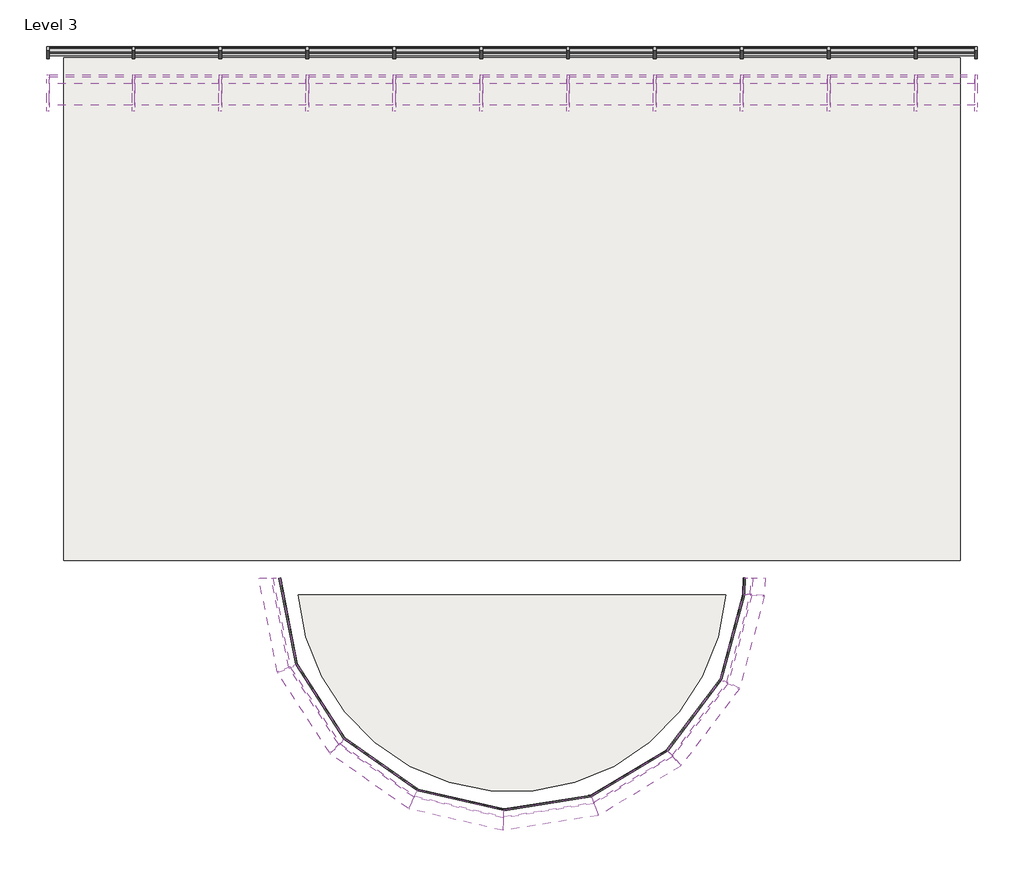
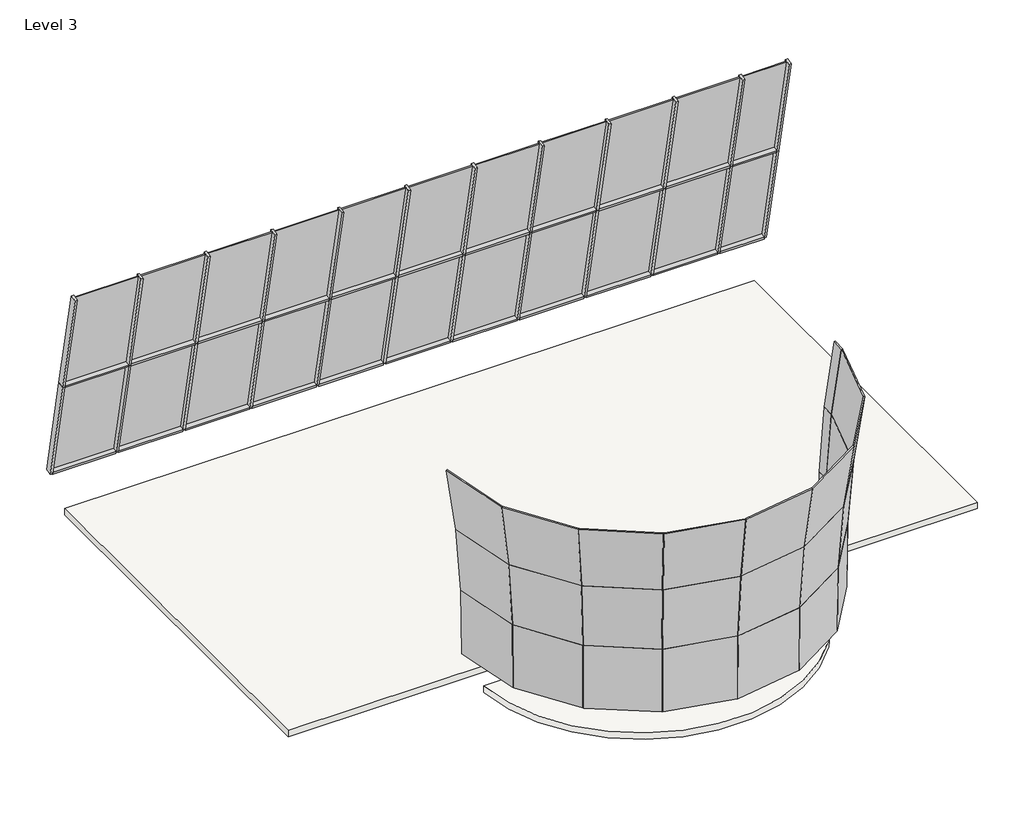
# One storey: 49 plates, 46 members, 2 slabs.
"""IFC4 building model written with IfcOpenShell, lengths in millimetres."""

from ifc_helpers import new_model, si_unit, point, frame, frame_2d, origin, place, context, project, spatial, polyline, circle_curve, trimmed, segment, composite_curve, outline, extrude, transform, mapped, element, save
from components import rectangular_mullion_50_x_150mm_662c37b1, rectangular_mullion_50_x_150mm_1f4d75dd, rectangular_mullion_50_x_150mm_f0154c62, rectangular_mullion_50_x_150mm_b8d1d5e0, rectangular_mullion_50_x_150mm_6225e4e3, system_panel_glazed_129cb0d4, system_panel_glazed_b38f2dba, system_panel_glazed_1b308fc3, system_panel_glazed_2e7a3a65, system_panel_glazed_ba983d34, system_panel_glazed_dd5094d1, system_panel_glazed_640ec45f, system_panel_glazed_0585b5a7, system_panel_glazed_ac3e331d

model = new_model("IFC4")

# Units and contexts
model_context = context("Model", 3, world=origin())
ifc_project = project(units=[si_unit("LENGTHUNIT", "METRE", prefix="MILLI")], contexts=[model_context])

# Site, building, storey
site = spatial("IfcSite", under=ifc_project)
building = spatial("IfcBuilding", under=site)
storey = spatial("IfcBuildingStorey", under=building, Name="Level 3", Elevation=8000.0)

# Members
placement = place(None, origin())
rectangular_mullion_50_x_150mm_shape = rectangular_mullion_50_x_150mm_662c37b1(model_context)
element("IfcMember", 1, ObjectType="Rectangular Mullion : 50 x 150mm", at=placement, inside=storey, context=model_context, shape_type="MappedRepresentation", body=[
    mapped(rectangular_mullion_50_x_150mm_shape, transform((7953.3508723, 7000.6875314, 11260.6991471), x_axis=(1.0, 0.0, 0.0), y_axis=(0.0, 0.9794896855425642, 0.20149430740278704), z_axis=(0.0, -0.20149430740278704, 0.9794896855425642))),
])
element("IfcMember", 2, ObjectType="Rectangular Mullion : 50 x 150mm", at=placement, inside=storey, context=model_context, shape_type="MappedRepresentation", body=[
    mapped(rectangular_mullion_50_x_150mm_shape, transform((7953.3508723, 6517.1011936, 13611.4743924), x_axis=(1.0, 0.0, 0.0), y_axis=(0.0, 0.9794896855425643, 0.20149430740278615), z_axis=(0.0, -0.20149430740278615, 0.9794896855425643))),
])
element("IfcMember", 3, ObjectType="Rectangular Mullion : 50 x 150mm", at=placement, inside=storey, context=model_context, shape_type="MappedRepresentation", body=[
    mapped(rectangular_mullion_50_x_150mm_shape, transform((-8113.532296, 7484.2738691, 8909.9239018), x_axis=(-1.0, 0.0, 0.0), y_axis=(0.0, 0.9794896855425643, 0.20149430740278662), z_axis=(0.0, 0.20149430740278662, -0.9794896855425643))),
])
element("IfcMember", 4, ObjectType="Rectangular Mullion : 50 x 150mm", at=placement, inside=storey, context=model_context, shape_type="MappedRepresentation", body=[
    mapped(rectangular_mullion_50_x_150mm_shape, transform((-8113.532296, 7000.6875314, 11260.6991471), x_axis=(-1.0, 0.0, 0.0), y_axis=(0.0, 0.9794896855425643, 0.20149430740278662), z_axis=(0.0, 0.20149430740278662, -0.9794896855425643))),
])
rectangular_mullion_50_x_150mm_2_shape = rectangular_mullion_50_x_150mm_1f4d75dd(model_context)
element("IfcMember", 5, ObjectType="Rectangular Mullion : 50 x 150mm", at=placement, inside=storey, context=model_context, shape_type="MappedRepresentation", body=[
    mapped(rectangular_mullion_50_x_150mm_2_shape, transform((-8063.532296, 7484.2738691, 8909.9239018), x_axis=(0.0, -0.2014943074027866, 0.9794896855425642), y_axis=(0.0, 0.9794896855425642, 0.2014943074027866), z_axis=(-1.0, 0.0, 0.0))),
])
element("IfcMember", 6, ObjectType="Rectangular Mullion : 50 x 150mm", at=placement, inside=storey, context=model_context, shape_type="MappedRepresentation", body=[
    mapped(rectangular_mullion_50_x_150mm_2_shape, transform((-8063.532296, 7000.6875314, 11260.6991471), x_axis=(0.0, -0.2014943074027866, 0.9794896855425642), y_axis=(0.0, 0.9794896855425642, 0.2014943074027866), z_axis=(-1.0, 0.0, 0.0))),
])
rectangular_mullion_50_x_150mm_3_shape = rectangular_mullion_50_x_150mm_f0154c62(model_context)
element("IfcMember", 7, ObjectType="Rectangular Mullion : 50 x 150mm", at=placement, inside=storey, context=model_context, shape_type="MappedRepresentation", body=[
    mapped(rectangular_mullion_50_x_150mm_3_shape, transform((-6588.532296, 7484.2738691, 8909.9239018), x_axis=(0.0, -0.2014943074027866, 0.9794896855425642), y_axis=(0.0, 0.9794896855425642, 0.2014943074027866), z_axis=(-1.0, 0.0, 0.0))),
])
element("IfcMember", 8, ObjectType="Rectangular Mullion : 50 x 150mm", at=placement, inside=storey, context=model_context, shape_type="MappedRepresentation", body=[
    mapped(rectangular_mullion_50_x_150mm_3_shape, transform((-5088.532296, 7484.2738691, 8909.9239018), x_axis=(0.0, -0.2014943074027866, 0.9794896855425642), y_axis=(0.0, 0.9794896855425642, 0.2014943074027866), z_axis=(-1.0, 0.0, 0.0))),
])
element("IfcMember", 9, ObjectType="Rectangular Mullion : 50 x 150mm", at=placement, inside=storey, context=model_context, shape_type="MappedRepresentation", body=[
    mapped(rectangular_mullion_50_x_150mm_3_shape, transform((-3588.532296, 7484.2738691, 8909.9239018), x_axis=(0.0, -0.2014943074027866, 0.9794896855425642), y_axis=(0.0, 0.9794896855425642, 0.2014943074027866), z_axis=(-1.0, 0.0, 0.0))),
])
element("IfcMember", 10, ObjectType="Rectangular Mullion : 50 x 150mm", at=placement, inside=storey, context=model_context, shape_type="MappedRepresentation", body=[
    mapped(rectangular_mullion_50_x_150mm_3_shape, transform((-2088.532296, 7484.2738691, 8909.9239018), x_axis=(0.0, -0.2014943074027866, 0.9794896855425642), y_axis=(0.0, 0.9794896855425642, 0.2014943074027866), z_axis=(-1.0, 0.0, 0.0))),
])
element("IfcMember", 11, ObjectType="Rectangular Mullion : 50 x 150mm", at=placement, inside=storey, context=model_context, shape_type="MappedRepresentation", body=[
    mapped(rectangular_mullion_50_x_150mm_3_shape, transform((-588.532296, 7484.2738691, 8909.9239018), x_axis=(0.0, -0.2014943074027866, 0.9794896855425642), y_axis=(0.0, 0.9794896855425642, 0.2014943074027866), z_axis=(-1.0, 0.0, 0.0))),
])
element("IfcMember", 12, ObjectType="Rectangular Mullion : 50 x 150mm", at=placement, inside=storey, context=model_context, shape_type="MappedRepresentation", body=[
    mapped(rectangular_mullion_50_x_150mm_3_shape, transform((911.467704, 7484.2738691, 8909.9239018), x_axis=(0.0, -0.2014943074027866, 0.9794896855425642), y_axis=(0.0, 0.9794896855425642, 0.2014943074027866), z_axis=(-1.0, 0.0, 0.0))),
])
element("IfcMember", 13, ObjectType="Rectangular Mullion : 50 x 150mm", at=placement, inside=storey, context=model_context, shape_type="MappedRepresentation", body=[
    mapped(rectangular_mullion_50_x_150mm_3_shape, transform((2411.467704, 7484.2738691, 8909.9239018), x_axis=(0.0, -0.2014943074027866, 0.9794896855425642), y_axis=(0.0, 0.9794896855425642, 0.2014943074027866), z_axis=(-1.0, 0.0, 0.0))),
])
element("IfcMember", 14, ObjectType="Rectangular Mullion : 50 x 150mm", at=placement, inside=storey, context=model_context, shape_type="MappedRepresentation", body=[
    mapped(rectangular_mullion_50_x_150mm_3_shape, transform((3911.467704, 7484.2738691, 8909.9239018), x_axis=(0.0, -0.2014943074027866, 0.9794896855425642), y_axis=(0.0, 0.9794896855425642, 0.2014943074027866), z_axis=(-1.0, 0.0, 0.0))),
])
element("IfcMember", 15, ObjectType="Rectangular Mullion : 50 x 150mm", at=placement, inside=storey, context=model_context, shape_type="MappedRepresentation", body=[
    mapped(rectangular_mullion_50_x_150mm_3_shape, transform((5411.467704, 7484.2738691, 8909.9239018), x_axis=(0.0, -0.2014943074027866, 0.9794896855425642), y_axis=(0.0, 0.9794896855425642, 0.2014943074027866), z_axis=(-1.0, 0.0, 0.0))),
])
element("IfcMember", 16, ObjectType="Rectangular Mullion : 50 x 150mm", at=placement, inside=storey, context=model_context, shape_type="MappedRepresentation", body=[
    mapped(rectangular_mullion_50_x_150mm_3_shape, transform((-6588.532296, 7000.6875314, 11260.6991471), x_axis=(0.0, -0.2014943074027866, 0.9794896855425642), y_axis=(0.0, 0.9794896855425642, 0.2014943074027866), z_axis=(-1.0, 0.0, 0.0))),
])
element("IfcMember", 17, ObjectType="Rectangular Mullion : 50 x 150mm", at=placement, inside=storey, context=model_context, shape_type="MappedRepresentation", body=[
    mapped(rectangular_mullion_50_x_150mm_3_shape, transform((-5088.532296, 7000.6875314, 11260.6991471), x_axis=(0.0, -0.2014943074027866, 0.9794896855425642), y_axis=(0.0, 0.9794896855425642, 0.2014943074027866), z_axis=(-1.0, 0.0, 0.0))),
])
element("IfcMember", 18, ObjectType="Rectangular Mullion : 50 x 150mm", at=placement, inside=storey, context=model_context, shape_type="MappedRepresentation", body=[
    mapped(rectangular_mullion_50_x_150mm_3_shape, transform((-3588.532296, 7000.6875314, 11260.6991471), x_axis=(0.0, -0.2014943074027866, 0.9794896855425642), y_axis=(0.0, 0.9794896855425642, 0.2014943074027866), z_axis=(-1.0, 0.0, 0.0))),
])
element("IfcMember", 19, ObjectType="Rectangular Mullion : 50 x 150mm", at=placement, inside=storey, context=model_context, shape_type="MappedRepresentation", body=[
    mapped(rectangular_mullion_50_x_150mm_3_shape, transform((-2088.532296, 7000.6875314, 11260.6991471), x_axis=(0.0, -0.2014943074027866, 0.9794896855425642), y_axis=(0.0, 0.9794896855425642, 0.2014943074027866), z_axis=(-1.0, 0.0, 0.0))),
])
element("IfcMember", 20, ObjectType="Rectangular Mullion : 50 x 150mm", at=placement, inside=storey, context=model_context, shape_type="MappedRepresentation", body=[
    mapped(rectangular_mullion_50_x_150mm_3_shape, transform((-588.532296, 7000.6875314, 11260.6991471), x_axis=(0.0, -0.2014943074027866, 0.9794896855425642), y_axis=(0.0, 0.9794896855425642, 0.2014943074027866), z_axis=(-1.0, 0.0, 0.0))),
])
element("IfcMember", 21, ObjectType="Rectangular Mullion : 50 x 150mm", at=placement, inside=storey, context=model_context, shape_type="MappedRepresentation", body=[
    mapped(rectangular_mullion_50_x_150mm_3_shape, transform((911.467704, 7000.6875314, 11260.6991471), x_axis=(0.0, -0.2014943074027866, 0.9794896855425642), y_axis=(0.0, 0.9794896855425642, 0.2014943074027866), z_axis=(-1.0, 0.0, 0.0))),
])
element("IfcMember", 22, ObjectType="Rectangular Mullion : 50 x 150mm", at=placement, inside=storey, context=model_context, shape_type="MappedRepresentation", body=[
    mapped(rectangular_mullion_50_x_150mm_3_shape, transform((2411.467704, 7000.6875314, 11260.6991471), x_axis=(0.0, -0.2014943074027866, 0.9794896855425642), y_axis=(0.0, 0.9794896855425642, 0.2014943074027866), z_axis=(-1.0, 0.0, 0.0))),
])
element("IfcMember", 23, ObjectType="Rectangular Mullion : 50 x 150mm", at=placement, inside=storey, context=model_context, shape_type="MappedRepresentation", body=[
    mapped(rectangular_mullion_50_x_150mm_3_shape, transform((3911.467704, 7000.6875314, 11260.6991471), x_axis=(0.0, -0.2014943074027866, 0.9794896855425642), y_axis=(0.0, 0.9794896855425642, 0.2014943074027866), z_axis=(-1.0, 0.0, 0.0))),
])
element("IfcMember", 24, ObjectType="Rectangular Mullion : 50 x 150mm", at=placement, inside=storey, context=model_context, shape_type="MappedRepresentation", body=[
    mapped(rectangular_mullion_50_x_150mm_3_shape, transform((5411.467704, 7000.6875314, 11260.6991471), x_axis=(0.0, -0.2014943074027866, 0.9794896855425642), y_axis=(0.0, 0.9794896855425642, 0.2014943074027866), z_axis=(-1.0, 0.0, 0.0))),
])
rectangular_mullion_50_x_150mm_4_shape = rectangular_mullion_50_x_150mm_b8d1d5e0(model_context)
element("IfcMember", 25, ObjectType="Rectangular Mullion : 50 x 150mm", at=placement, inside=storey, context=model_context, shape_type="MappedRepresentation", body=[
    mapped(rectangular_mullion_50_x_150mm_4_shape, transform((6911.467704, 7484.2738691, 8909.9239018), x_axis=(0.0, -0.2014943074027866, 0.9794896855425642), y_axis=(0.0, 0.9794896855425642, 0.2014943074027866), z_axis=(-1.0, 0.0, 0.0))),
])
element("IfcMember", 26, ObjectType="Rectangular Mullion : 50 x 150mm", at=placement, inside=storey, context=model_context, shape_type="MappedRepresentation", body=[
    mapped(rectangular_mullion_50_x_150mm_4_shape, transform((6911.467704, 7000.6875314, 11260.6991471), x_axis=(0.0, -0.2014943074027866, 0.9794896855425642), y_axis=(0.0, 0.9794896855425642, 0.2014943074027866), z_axis=(-1.0, 0.0, 0.0))),
])
rectangular_mullion_50_x_150mm_5_shape = rectangular_mullion_50_x_150mm_6225e4e3(model_context)
element("IfcMember", 27, ObjectType="Rectangular Mullion : 50 x 150mm", at=placement, inside=storey, context=model_context, shape_type="MappedRepresentation", body=[
    mapped(rectangular_mullion_50_x_150mm_5_shape, transform((-6613.532296, 7000.6875314, 11260.6991471), x_axis=(1.0, 0.0, 0.0), y_axis=(0.0, 0.9794896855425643, 0.20149430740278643), z_axis=(0.0, -0.20149430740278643, 0.9794896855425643))),
])
element("IfcMember", 28, ObjectType="Rectangular Mullion : 50 x 150mm", at=placement, inside=storey, context=model_context, shape_type="MappedRepresentation", body=[
    mapped(rectangular_mullion_50_x_150mm_5_shape, transform((-5113.532296, 7000.6875314, 11260.6991471), x_axis=(1.0, 0.0, 0.0), y_axis=(0.0, 0.9794896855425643, 0.20149430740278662), z_axis=(0.0, -0.20149430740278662, 0.9794896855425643))),
])
element("IfcMember", 29, ObjectType="Rectangular Mullion : 50 x 150mm", at=placement, inside=storey, context=model_context, shape_type="MappedRepresentation", body=[
    mapped(rectangular_mullion_50_x_150mm_5_shape, transform((-3613.532296, 7000.6875314, 11260.6991471), x_axis=(1.0, 0.0, 0.0), y_axis=(0.0, 0.9794896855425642, 0.20149430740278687), z_axis=(0.0, -0.20149430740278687, 0.9794896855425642))),
])
element("IfcMember", 30, ObjectType="Rectangular Mullion : 50 x 150mm", at=placement, inside=storey, context=model_context, shape_type="MappedRepresentation", body=[
    mapped(rectangular_mullion_50_x_150mm_5_shape, transform((-2113.532296, 7000.6875314, 11260.6991471), x_axis=(1.0, 0.0, 0.0), y_axis=(0.0, 0.9794896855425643, 0.20149430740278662), z_axis=(0.0, -0.20149430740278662, 0.9794896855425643))),
])
element("IfcMember", 31, ObjectType="Rectangular Mullion : 50 x 150mm", at=placement, inside=storey, context=model_context, shape_type="MappedRepresentation", body=[
    mapped(rectangular_mullion_50_x_150mm_5_shape, transform((-613.532296, 7000.6875314, 11260.6991471), x_axis=(1.0, 0.0, 0.0), y_axis=(0.0, 0.9794896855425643, 0.20149430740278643), z_axis=(0.0, -0.20149430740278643, 0.9794896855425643))),
])
element("IfcMember", 32, ObjectType="Rectangular Mullion : 50 x 150mm", at=placement, inside=storey, context=model_context, shape_type="MappedRepresentation", body=[
    mapped(rectangular_mullion_50_x_150mm_5_shape, transform((886.467704, 7000.6875314, 11260.6991471), x_axis=(1.0, 0.0, 0.0), y_axis=(0.0, 0.9794896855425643, 0.20149430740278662), z_axis=(0.0, -0.20149430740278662, 0.9794896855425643))),
])
element("IfcMember", 33, ObjectType="Rectangular Mullion : 50 x 150mm", at=placement, inside=storey, context=model_context, shape_type="MappedRepresentation", body=[
    mapped(rectangular_mullion_50_x_150mm_5_shape, transform((2386.467704, 7000.6875314, 11260.6991471), x_axis=(1.0, 0.0, 0.0), y_axis=(0.0, 0.9794896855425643, 0.20149430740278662), z_axis=(0.0, -0.20149430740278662, 0.9794896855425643))),
])
element("IfcMember", 34, ObjectType="Rectangular Mullion : 50 x 150mm", at=placement, inside=storey, context=model_context, shape_type="MappedRepresentation", body=[
    mapped(rectangular_mullion_50_x_150mm_5_shape, transform((3886.467704, 7000.6875314, 11260.6991471), x_axis=(1.0, 0.0, 0.0), y_axis=(0.0, 0.9794896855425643, 0.20149430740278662), z_axis=(0.0, -0.20149430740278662, 0.9794896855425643))),
])
element("IfcMember", 35, ObjectType="Rectangular Mullion : 50 x 150mm", at=placement, inside=storey, context=model_context, shape_type="MappedRepresentation", body=[
    mapped(rectangular_mullion_50_x_150mm_5_shape, transform((5386.467704, 7000.6875314, 11260.6991471), x_axis=(1.0, 0.0, 0.0), y_axis=(0.0, 0.9794896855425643, 0.20149430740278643), z_axis=(0.0, -0.20149430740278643, 0.9794896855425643))),
])
element("IfcMember", 36, ObjectType="Rectangular Mullion : 50 x 150mm", at=placement, inside=storey, context=model_context, shape_type="MappedRepresentation", body=[
    mapped(rectangular_mullion_50_x_150mm_5_shape, transform((6886.467704, 7000.6875314, 11260.6991471), x_axis=(1.0, 0.0, 0.0), y_axis=(0.0, 0.9794896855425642, 0.20149430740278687), z_axis=(0.0, -0.20149430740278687, 0.9794896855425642))),
])
element("IfcMember", 37, ObjectType="Rectangular Mullion : 50 x 150mm", at=placement, inside=storey, context=model_context, shape_type="MappedRepresentation", body=[
    mapped(rectangular_mullion_50_x_150mm_5_shape, transform((-6613.532296, 6517.1011936, 13611.4743924), x_axis=(1.0, 0.0, 0.0), y_axis=(0.0, 0.9794896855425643, 0.20149430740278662), z_axis=(0.0, -0.20149430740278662, 0.9794896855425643))),
])
element("IfcMember", 38, ObjectType="Rectangular Mullion : 50 x 150mm", at=placement, inside=storey, context=model_context, shape_type="MappedRepresentation", body=[
    mapped(rectangular_mullion_50_x_150mm_5_shape, transform((-5113.532296, 6517.1011936, 13611.4743924), x_axis=(1.0, 0.0, 0.0), y_axis=(0.0, 0.9794896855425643, 0.20149430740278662), z_axis=(0.0, -0.20149430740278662, 0.9794896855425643))),
])
element("IfcMember", 39, ObjectType="Rectangular Mullion : 50 x 150mm", at=placement, inside=storey, context=model_context, shape_type="MappedRepresentation", body=[
    mapped(rectangular_mullion_50_x_150mm_5_shape, transform((-3613.532296, 6517.1011936, 13611.4743924), x_axis=(1.0, 0.0, 0.0), y_axis=(0.0, 0.9794896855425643, 0.20149430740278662), z_axis=(0.0, -0.20149430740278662, 0.9794896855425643))),
])
element("IfcMember", 40, ObjectType="Rectangular Mullion : 50 x 150mm", at=placement, inside=storey, context=model_context, shape_type="MappedRepresentation", body=[
    mapped(rectangular_mullion_50_x_150mm_5_shape, transform((-2113.532296, 6517.1011936, 13611.4743924), x_axis=(1.0, 0.0, 0.0), y_axis=(0.0, 0.9794896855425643, 0.20149430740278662), z_axis=(0.0, -0.20149430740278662, 0.9794896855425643))),
])
element("IfcMember", 41, ObjectType="Rectangular Mullion : 50 x 150mm", at=placement, inside=storey, context=model_context, shape_type="MappedRepresentation", body=[
    mapped(rectangular_mullion_50_x_150mm_5_shape, transform((-613.532296, 6517.1011936, 13611.4743924), x_axis=(1.0, 0.0, 0.0), y_axis=(0.0, 0.9794896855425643, 0.20149430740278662), z_axis=(0.0, -0.20149430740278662, 0.9794896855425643))),
])
element("IfcMember", 42, ObjectType="Rectangular Mullion : 50 x 150mm", at=placement, inside=storey, context=model_context, shape_type="MappedRepresentation", body=[
    mapped(rectangular_mullion_50_x_150mm_5_shape, transform((886.467704, 6517.1011936, 13611.4743924), x_axis=(1.0, 0.0, 0.0), y_axis=(0.0, 0.9794896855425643, 0.20149430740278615), z_axis=(0.0, -0.20149430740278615, 0.9794896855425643))),
])
element("IfcMember", 43, ObjectType="Rectangular Mullion : 50 x 150mm", at=placement, inside=storey, context=model_context, shape_type="MappedRepresentation", body=[
    mapped(rectangular_mullion_50_x_150mm_5_shape, transform((2386.467704, 6517.1011936, 13611.4743924), x_axis=(1.0, 0.0, 0.0), y_axis=(0.0, 0.9794896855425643, 0.20149430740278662), z_axis=(0.0, -0.20149430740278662, 0.9794896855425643))),
])
element("IfcMember", 44, ObjectType="Rectangular Mullion : 50 x 150mm", at=placement, inside=storey, context=model_context, shape_type="MappedRepresentation", body=[
    mapped(rectangular_mullion_50_x_150mm_5_shape, transform((3886.467704, 6517.1011936, 13611.4743924), x_axis=(1.0, 0.0, 0.0), y_axis=(0.0, 0.9794896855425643, 0.20149430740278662), z_axis=(0.0, -0.20149430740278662, 0.9794896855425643))),
])
element("IfcMember", 45, ObjectType="Rectangular Mullion : 50 x 150mm", at=placement, inside=storey, context=model_context, shape_type="MappedRepresentation", body=[
    mapped(rectangular_mullion_50_x_150mm_5_shape, transform((5386.467704, 6517.1011936, 13611.4743924), x_axis=(1.0, 0.0, 0.0), y_axis=(0.0, 0.9794896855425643, 0.20149430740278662), z_axis=(0.0, -0.20149430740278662, 0.9794896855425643))),
])
element("IfcMember", 46, ObjectType="Rectangular Mullion : 50 x 150mm", at=placement, inside=storey, context=model_context, shape_type="MappedRepresentation", body=[
    mapped(rectangular_mullion_50_x_150mm_5_shape, transform((6886.467704, 6517.1011936, 13611.4743924), x_axis=(1.0, 0.0, 0.0), y_axis=(0.0, 0.9794896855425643, 0.20149430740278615), z_axis=(0.0, -0.20149430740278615, 0.9794896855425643))),
])

# Plates
system_panel_glazed_shape = system_panel_glazed_129cb0d4(model_context)
element("IfcPlate", 47, ObjectType="System Panel : Glazed", at=placement, inside=storey, context=model_context, shape_type="MappedRepresentation", body=[
    mapped(system_panel_glazed_shape, transform((-7351.032296, 7479.2365115, 8934.4111439), x_axis=(1.0, 0.0, 0.0), y_axis=(0.0, 0.9794896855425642, 0.2014943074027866), z_axis=(0.0, -0.2014943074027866, 0.9794896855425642))),
])
element("IfcPlate", 48, ObjectType="System Panel : Glazed", at=placement, inside=storey, context=model_context, shape_type="MappedRepresentation", body=[
    mapped(system_panel_glazed_shape, transform((-7351.032296, 6995.6501737, 11285.1863892), x_axis=(1.0, 0.0, 0.0), y_axis=(0.0, 0.9794896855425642, 0.2014943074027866), z_axis=(0.0, -0.2014943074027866, 0.9794896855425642))),
])
system_panel_glazed_2_shape = system_panel_glazed_b38f2dba(model_context)
element("IfcPlate", 49, ObjectType="System Panel : Glazed", at=placement, inside=storey, context=model_context, shape_type="MappedRepresentation", body=[
    mapped(system_panel_glazed_2_shape, transform((-5863.532296, 7479.2365115, 8934.4111439), x_axis=(1.0, 0.0, 0.0), y_axis=(0.0, 0.9794896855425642, 0.2014943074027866), z_axis=(0.0, -0.2014943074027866, 0.9794896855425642))),
])
element("IfcPlate", 50, ObjectType="System Panel : Glazed", at=placement, inside=storey, context=model_context, shape_type="MappedRepresentation", body=[
    mapped(system_panel_glazed_2_shape, transform((-4363.532296, 7479.2365115, 8934.4111439), x_axis=(1.0, 0.0, 0.0), y_axis=(0.0, 0.9794896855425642, 0.2014943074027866), z_axis=(0.0, -0.2014943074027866, 0.9794896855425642))),
])
element("IfcPlate", 51, ObjectType="System Panel : Glazed", at=placement, inside=storey, context=model_context, shape_type="MappedRepresentation", body=[
    mapped(system_panel_glazed_2_shape, transform((-2863.532296, 7479.2365115, 8934.4111439), x_axis=(1.0, 0.0, 0.0), y_axis=(0.0, 0.9794896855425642, 0.2014943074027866), z_axis=(0.0, -0.2014943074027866, 0.9794896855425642))),
])
element("IfcPlate", 52, ObjectType="System Panel : Glazed", at=placement, inside=storey, context=model_context, shape_type="MappedRepresentation", body=[
    mapped(system_panel_glazed_2_shape, transform((-1363.532296, 7479.2365115, 8934.4111439), x_axis=(1.0, 0.0, 0.0), y_axis=(0.0, 0.9794896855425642, 0.2014943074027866), z_axis=(0.0, -0.2014943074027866, 0.9794896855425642))),
])
element("IfcPlate", 53, ObjectType="System Panel : Glazed", at=placement, inside=storey, context=model_context, shape_type="MappedRepresentation", body=[
    mapped(system_panel_glazed_2_shape, transform((136.467704, 7479.2365115, 8934.4111439), x_axis=(1.0, 0.0, 0.0), y_axis=(0.0, 0.9794896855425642, 0.2014943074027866), z_axis=(0.0, -0.2014943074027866, 0.9794896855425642))),
])
element("IfcPlate", 54, ObjectType="System Panel : Glazed", at=placement, inside=storey, context=model_context, shape_type="MappedRepresentation", body=[
    mapped(system_panel_glazed_2_shape, transform((1636.467704, 7479.2365115, 8934.4111439), x_axis=(1.0, 0.0, 0.0), y_axis=(0.0, 0.9794896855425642, 0.2014943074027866), z_axis=(0.0, -0.2014943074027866, 0.9794896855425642))),
])
element("IfcPlate", 55, ObjectType="System Panel : Glazed", at=placement, inside=storey, context=model_context, shape_type="MappedRepresentation", body=[
    mapped(system_panel_glazed_2_shape, transform((3136.467704, 7479.2365115, 8934.4111439), x_axis=(1.0, 0.0, 0.0), y_axis=(0.0, 0.9794896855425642, 0.2014943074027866), z_axis=(0.0, -0.2014943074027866, 0.9794896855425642))),
])
element("IfcPlate", 56, ObjectType="System Panel : Glazed", at=placement, inside=storey, context=model_context, shape_type="MappedRepresentation", body=[
    mapped(system_panel_glazed_2_shape, transform((4636.467704, 7479.2365115, 8934.4111439), x_axis=(1.0, 0.0, 0.0), y_axis=(0.0, 0.9794896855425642, 0.2014943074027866), z_axis=(0.0, -0.2014943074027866, 0.9794896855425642))),
])
element("IfcPlate", 57, ObjectType="System Panel : Glazed", at=placement, inside=storey, context=model_context, shape_type="MappedRepresentation", body=[
    mapped(system_panel_glazed_2_shape, transform((6136.467704, 7479.2365115, 8934.4111439), x_axis=(1.0, 0.0, 0.0), y_axis=(0.0, 0.9794896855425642, 0.2014943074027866), z_axis=(0.0, -0.2014943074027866, 0.9794896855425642))),
])
element("IfcPlate", 58, ObjectType="System Panel : Glazed", at=placement, inside=storey, context=model_context, shape_type="MappedRepresentation", body=[
    mapped(system_panel_glazed_2_shape, transform((-5863.532296, 6995.6501737, 11285.1863892), x_axis=(1.0, 0.0, 0.0), y_axis=(0.0, 0.9794896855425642, 0.2014943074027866), z_axis=(0.0, -0.2014943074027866, 0.9794896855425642))),
])
element("IfcPlate", 59, ObjectType="System Panel : Glazed", at=placement, inside=storey, context=model_context, shape_type="MappedRepresentation", body=[
    mapped(system_panel_glazed_2_shape, transform((-4363.532296, 6995.6501737, 11285.1863892), x_axis=(1.0, 0.0, 0.0), y_axis=(0.0, 0.9794896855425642, 0.2014943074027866), z_axis=(0.0, -0.2014943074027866, 0.9794896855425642))),
])
element("IfcPlate", 60, ObjectType="System Panel : Glazed", at=placement, inside=storey, context=model_context, shape_type="MappedRepresentation", body=[
    mapped(system_panel_glazed_2_shape, transform((-2863.532296, 6995.6501737, 11285.1863892), x_axis=(1.0, 0.0, 0.0), y_axis=(0.0, 0.9794896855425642, 0.2014943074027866), z_axis=(0.0, -0.2014943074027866, 0.9794896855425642))),
])
element("IfcPlate", 61, ObjectType="System Panel : Glazed", at=placement, inside=storey, context=model_context, shape_type="MappedRepresentation", body=[
    mapped(system_panel_glazed_2_shape, transform((-1363.532296, 6995.6501737, 11285.1863892), x_axis=(1.0, 0.0, 0.0), y_axis=(0.0, 0.9794896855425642, 0.2014943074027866), z_axis=(0.0, -0.2014943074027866, 0.9794896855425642))),
])
element("IfcPlate", 62, ObjectType="System Panel : Glazed", at=placement, inside=storey, context=model_context, shape_type="MappedRepresentation", body=[
    mapped(system_panel_glazed_2_shape, transform((136.467704, 6995.6501737, 11285.1863892), x_axis=(1.0, 0.0, 0.0), y_axis=(0.0, 0.9794896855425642, 0.2014943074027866), z_axis=(0.0, -0.2014943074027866, 0.9794896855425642))),
])
element("IfcPlate", 63, ObjectType="System Panel : Glazed", at=placement, inside=storey, context=model_context, shape_type="MappedRepresentation", body=[
    mapped(system_panel_glazed_2_shape, transform((1636.467704, 6995.6501737, 11285.1863892), x_axis=(1.0, 0.0, 0.0), y_axis=(0.0, 0.9794896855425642, 0.2014943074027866), z_axis=(0.0, -0.2014943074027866, 0.9794896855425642))),
])
element("IfcPlate", 64, ObjectType="System Panel : Glazed", at=placement, inside=storey, context=model_context, shape_type="MappedRepresentation", body=[
    mapped(system_panel_glazed_2_shape, transform((3136.467704, 6995.6501737, 11285.1863892), x_axis=(1.0, 0.0, 0.0), y_axis=(0.0, 0.9794896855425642, 0.2014943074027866), z_axis=(0.0, -0.2014943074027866, 0.9794896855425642))),
])
element("IfcPlate", 65, ObjectType="System Panel : Glazed", at=placement, inside=storey, context=model_context, shape_type="MappedRepresentation", body=[
    mapped(system_panel_glazed_2_shape, transform((4636.467704, 6995.6501737, 11285.1863892), x_axis=(1.0, 0.0, 0.0), y_axis=(0.0, 0.9794896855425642, 0.2014943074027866), z_axis=(0.0, -0.2014943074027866, 0.9794896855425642))),
])
element("IfcPlate", 66, ObjectType="System Panel : Glazed", at=placement, inside=storey, context=model_context, shape_type="MappedRepresentation", body=[
    mapped(system_panel_glazed_2_shape, transform((6136.467704, 6995.6501737, 11285.1863892), x_axis=(1.0, 0.0, 0.0), y_axis=(0.0, 0.9794896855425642, 0.2014943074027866), z_axis=(0.0, -0.2014943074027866, 0.9794896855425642))),
])
system_panel_glazed_3_shape = system_panel_glazed_1b308fc3(model_context)
element("IfcPlate", 67, ObjectType="System Panel : Glazed", at=placement, inside=storey, context=model_context, shape_type="MappedRepresentation", body=[
    mapped(system_panel_glazed_3_shape, transform((7407.4092881, 7479.2365115, 8934.4111439), x_axis=(1.0, 0.0, 0.0), y_axis=(0.0, 0.9794896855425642, 0.2014943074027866), z_axis=(0.0, -0.2014943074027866, 0.9794896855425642))),
])
element("IfcPlate", 68, ObjectType="System Panel : Glazed", at=placement, inside=storey, context=model_context, shape_type="MappedRepresentation", body=[
    mapped(system_panel_glazed_3_shape, transform((7407.4092881, 6995.6501737, 11285.1863892), x_axis=(1.0, 0.0, 0.0), y_axis=(0.0, 0.9794896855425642, 0.2014943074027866), z_axis=(0.0, -0.2014943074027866, 0.9794896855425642))),
])
system_panel_glazed_4_shape = system_panel_glazed_2e7a3a65(model_context)
element("IfcPlate", 69, ObjectType="System Panel : Glazed", at=placement, inside=storey, context=model_context, shape_type="MappedRepresentation", body=[
    mapped(system_panel_glazed_4_shape, transform((3885.3652441, -1750.5822894, 8709.1719046), x_axis=(0.035403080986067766, 0.9993731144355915, 0.0), y_axis=(-0.9993268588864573, 0.03540144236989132, 0.009621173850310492), z_axis=(0.009615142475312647, -0.0003406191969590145, 0.9999537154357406))),
])
system_panel_glazed_5_shape = system_panel_glazed_ba983d34(model_context)
element("IfcPlate", 70, ObjectType="System Panel : Glazed", at=placement, inside=storey, context=model_context, shape_type="MappedRepresentation", body=[
    mapped(system_panel_glazed_5_shape, transform((3899.7879576, -1751.0932001, 10209.1023906), x_axis=(0.03540308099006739, 0.99937311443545, 0.0), y_axis=(-0.9963120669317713, 0.03529464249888, 0.0782083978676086), z_axis=(0.07815937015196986, -0.0027688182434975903, 0.9969370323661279))),
])
system_panel_glazed_6_shape = system_panel_glazed_dd5094d1(model_context)
element("IfcPlate", 71, ObjectType="System Panel : Glazed", at=placement, inside=storey, context=model_context, shape_type="MappedRepresentation", body=[
    mapped(system_panel_glazed_6_shape, transform((4017.0265641, -1755.2463781, 11704.5022), x_axis=(0.035403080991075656, 0.9993731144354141, 0.0), y_axis=(-0.9888792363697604, 0.035031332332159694, 0.1445360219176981), z_axis=(0.14444541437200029, -0.005117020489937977, 0.9894995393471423))),
])
system_panel_glazed_7_shape = system_panel_glazed_640ec45f(model_context)
element("IfcPlate", 72, ObjectType="System Panel : Glazed", at=placement, inside=storey, context=model_context, shape_type="MappedRepresentation", body=[
    mapped(system_panel_glazed_7_shape, transform((-3906.0609144, -2353.548776, 8709.1719046), x_axis=(0.19074722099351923, -0.9816391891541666, 0.0), y_axis=(0.9815953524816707, 0.19073870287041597, 0.009450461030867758), z_axis=(-0.009276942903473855, -0.001802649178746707, 0.999955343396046))),
])
element("IfcPlate", 73, ObjectType="System Panel : Glazed", at=placement, inside=storey, context=model_context, shape_type="MappedRepresentation", body=[
    mapped(system_panel_glazed_7_shape, transform((-2316.6281436, -4802.0729371, 8709.1719046), x_axis=(0.8189714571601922, -0.5738342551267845, 0.0), y_axis=(0.5738086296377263, 0.8189348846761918, 0.00945046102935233), z_axis=(-0.005422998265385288, -0.007739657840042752, 0.9999553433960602))),
])
element("IfcPlate", 74, ObjectType="System Panel : Glazed", at=placement, inside=storey, context=model_context, shape_type="MappedRepresentation", body=[
    mapped(system_panel_glazed_7_shape, transform((527.4362502, -5459.9973085, 8709.1719046), x_axis=(0.9877768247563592, 0.15587477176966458, 0.0), y_axis=(-0.1558678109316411, 0.9877327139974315, 0.009450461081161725), z_axis=(0.0014730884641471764, -0.009334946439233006, 0.9999553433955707))),
])
element("IfcPlate", 75, ObjectType="System Panel : Glazed", at=placement, inside=storey, context=model_context, shape_type="MappedRepresentation", body=[
    mapped(system_panel_glazed_7_shape, transform((3030.6957362, -3958.2459599, 8709.1719046), x_axis=(0.6024685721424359, 0.7981426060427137, 0.0), y_axis=(-0.7981069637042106, 0.6024416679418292, 0.009450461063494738), z_axis=(0.007542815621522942, -0.005693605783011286, 0.9999553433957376))),
])
element("IfcPlate", 76, ObjectType="System Panel : Glazed", at=placement, inside=storey, context=model_context, shape_type="MappedRepresentation", body=[
    mapped(system_panel_glazed_7_shape, transform((3683.6816886, -2622.4163723, 8709.1719046), x_axis=(0.25973122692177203, 0.9656809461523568, 0.0), y_axis=(-0.9656378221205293, 0.25971962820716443, 0.009450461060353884), z_axis=(0.009126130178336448, -0.002454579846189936, 0.9999553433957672))),
])
element("IfcPlate", 77, ObjectType="System Panel : Glazed", at=placement, inside=storey, context=model_context, shape_type="MappedRepresentation", body=[
    mapped(system_panel_glazed_7_shape, transform((1924.9723424, -4952.3320123, 8709.1719046), x_axis=(0.8575238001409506, 0.5144442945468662, 0.0), y_axis=(-0.5144213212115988, 0.8574855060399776, 0.009450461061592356), z_axis=(0.004861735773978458, -0.00810399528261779, 0.9999553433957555))),
])
element("IfcPlate", 78, ObjectType="System Panel : Glazed", at=placement, inside=storey, context=model_context, shape_type="MappedRepresentation", body=[
    mapped(system_panel_glazed_7_shape, transform((-958.5181677, -5407.3572582, 8709.1719046), x_axis=(0.974270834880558, -0.22538043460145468, 0.0), y_axis=(0.22537036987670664, 0.9742273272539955, 0.009450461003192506), z_axis=(-0.002129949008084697, -0.00920730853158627, 0.9999553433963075))),
])
element("IfcPlate", 79, ObjectType="System Panel : Glazed", at=placement, inside=storey, context=model_context, shape_type="MappedRepresentation", body=[
    mapped(system_panel_glazed_7_shape, transform((-3349.2369792, -3732.236149, 8709.1719046), x_axis=(0.5444806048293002, -0.8387734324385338, 0.0), y_axis=(0.8387359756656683, 0.5444562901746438, 0.009450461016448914), z_axis=(-0.007926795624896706, -0.005145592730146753, 0.9999553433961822))),
])
system_panel_glazed_8_shape = system_panel_glazed_0585b5a7(model_context)
element("IfcPlate", 80, ObjectType="System Panel : Glazed", at=placement, inside=storey, context=model_context, shape_type="MappedRepresentation", body=[
    mapped(system_panel_glazed_8_shape, transform((-3919.9763059, -2356.252742, 10209.1023906), x_axis=(0.19074722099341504, -0.9816391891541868, 0.0), y_axis=(0.9787377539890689, 0.19018342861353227, 0.07682885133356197), z_axis=(-0.07541821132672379, -0.014654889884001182, 0.9970442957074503))),
])
element("IfcPlate", 81, ObjectType="System Panel : Glazed", at=placement, inside=storey, context=model_context, shape_type="MappedRepresentation", body=[
    mapped(system_panel_glazed_8_shape, transform((-2324.7626286, -4813.6824034, 10209.1023906), x_axis=(0.818971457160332, -0.5738342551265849, 0.0), y_axis=(0.5721381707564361, 0.816550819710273, 0.07682885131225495), z_axis=(-0.0440870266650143, -0.06292063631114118, 0.9970442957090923))),
])
element("IfcPlate", 82, ObjectType="System Panel : Glazed", at=placement, inside=storey, context=model_context, shape_type="MappedRepresentation", body=[
    mapped(system_panel_glazed_8_shape, transform((529.6458804, -5473.9997043, 10209.1023906), x_axis=(0.987776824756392, 0.15587477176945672, 0.0), y_axis=(-0.15541405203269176, 0.9848572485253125, 0.07682885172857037), z_axis=(0.011975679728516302, -0.07588975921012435, 0.9970442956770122))),
])
element("IfcPlate", 83, ObjectType="System Panel : Glazed", at=placement, inside=storey, context=model_context, shape_type="MappedRepresentation", body=[
    mapped(system_panel_glazed_8_shape, transform((3042.0099426, -3966.7863515, 10209.1023906), x_axis=(0.6024685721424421, 0.7981426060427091, 0.0), y_axis=(-0.7957835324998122, 0.600687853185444, 0.07682885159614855), z_axis=(0.06132037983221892, -0.046286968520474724, 0.9970442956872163))),
])
element("IfcPlate", 84, ObjectType="System Panel : Glazed", at=placement, inside=storey, context=model_context, shape_type="MappedRepresentation", body=[
    mapped(system_panel_glazed_8_shape, transform((3697.3708599, -2626.098239, 10209.1023906), x_axis=(0.25973122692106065, 0.9656809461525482, 0.0), y_axis=(-0.96282667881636, 0.2589635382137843, 0.07682885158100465), z_axis=(0.07419215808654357, -0.01995485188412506, 0.9970442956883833))),
])
element("IfcPlate", 85, ObjectType="System Panel : Glazed", at=placement, inside=storey, context=model_context, shape_type="MappedRepresentation", body=[
    mapped(system_panel_glazed_8_shape, transform((1932.2649318, -4964.4879859, 10209.1023906), x_axis=(0.857523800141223, 0.5144442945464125, 0.0), y_axis=(-0.5129237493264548, 0.8549892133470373, 0.07682885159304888), z_axis=(0.03952416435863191, -0.0658825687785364, 0.997044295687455))),
])
element("IfcPlate", 86, ObjectType="System Panel : Glazed", at=placement, inside=storey, context=model_context, shape_type="MappedRepresentation", body=[
    mapped(system_panel_glazed_8_shape, transform((-961.7130857, -5421.1681978, 10209.1023906), x_axis=(0.9742708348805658, -0.2253804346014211, 0.0), y_axis=(0.2247142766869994, 0.9713911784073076, 0.07682885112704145), z_axis=(-0.017315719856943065, -0.07485210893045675, 0.997044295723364))),
])
element("IfcPlate", 87, ObjectType="System Panel : Glazed", at=placement, inside=storey, context=model_context, shape_type="MappedRepresentation", body=[
    mapped(system_panel_glazed_8_shape, transform((-3361.1271513, -3739.9545272, 10209.1023906), x_axis=(0.5444806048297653, -0.8387734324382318, 0.0), y_axis=(0.8362942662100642, 0.5428712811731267, 0.07682885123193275), z_axis=(-0.0644419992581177, -0.04183181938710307, 0.9970442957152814))),
])
system_panel_glazed_9_shape = system_panel_glazed_ac3e331d(model_context)
element("IfcPlate", 88, ObjectType="System Panel : Glazed", at=placement, inside=storey, context=model_context, shape_type="MappedRepresentation", body=[
    mapped(system_panel_glazed_9_shape, transform((-4033.0910195, -2378.2326216, 11704.5022), x_axis=(0.19074722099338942, -0.9816391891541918, 0.0), y_axis=(0.9716886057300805, 0.1888136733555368, 0.14202341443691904), z_axis=(-0.13941574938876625, -0.02709057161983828, 0.9898632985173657))),
])
element("IfcPlate", 89, ObjectType="System Panel : Glazed", at=placement, inside=storey, context=model_context, shape_type="MappedRepresentation", body=[
    mapped(system_panel_glazed_9_shape, transform((-2390.8858028, -4908.0528404, 11704.5022), x_axis=(0.8189714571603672, -0.5738342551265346, 0.0), y_axis=(0.5680174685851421, 0.8106697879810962, 0.14202341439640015), z_axis=(-0.08149790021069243, -0.1163131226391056, 0.9898632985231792))),
])
element("IfcPlate", 90, ObjectType="System Panel : Glazed", at=placement, inside=storey, context=model_context, shape_type="MappedRepresentation", body=[
    mapped(system_panel_glazed_9_shape, transform((547.6074009, -5587.8216594, 11704.5022), x_axis=(0.9877768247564, 0.1558747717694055, 0.0), y_axis=(-0.15429471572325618, 0.9777640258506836, 0.1420234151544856), z_axis=(0.02213786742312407, -0.14028743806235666, 0.9898632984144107))),
])
element("IfcPlate", 91, ObjectType="System Panel : Glazed", at=placement, inside=storey, context=model_context, shape_type="MappedRepresentation", body=[
    mapped(system_panel_glazed_9_shape, transform((3133.9802676, -4036.2090637, 11704.5022), x_axis=(0.6024685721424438, 0.7981426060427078, 0.0), y_axis=(-0.7900520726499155, 0.5963615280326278, 0.14202341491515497), z_axis=(0.11335493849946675, -0.08556464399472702, 0.9898632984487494))),
])
element("IfcPlate", 92, ObjectType="System Panel : Glazed", at=placement, inside=storey, context=model_context, shape_type="MappedRepresentation", body=[
    mapped(system_panel_glazed_9_shape, transform((3808.6466958, -2656.0271878, 11704.5022), x_axis=(0.2597312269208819, 0.9656809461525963, 0.0), y_axis=(-0.9558921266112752, 0.25709840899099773, 0.14202341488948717), z_axis=(0.13714930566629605, -0.03688791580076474, 0.9898632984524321))),
])
element("IfcPlate", 93, ObjectType="System Panel : Glazed", at=placement, inside=storey, context=model_context, shape_type="MappedRepresentation", body=[
    mapped(system_panel_glazed_9_shape, transform((1991.544569, -5063.3008305, 11704.5022), x_axis=(0.8575238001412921, 0.514444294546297, 0.0), y_axis=(-0.5092295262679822, 0.8488313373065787, 0.14202341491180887), z_axis=(0.07306313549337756, -0.12178845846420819, 0.9898632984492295))),
])
element("IfcPlate", 94, ObjectType="System Panel : Glazed", at=placement, inside=storey, context=model_context, shape_type="MappedRepresentation", body=[
    mapped(system_panel_glazed_9_shape, transform((-987.6837713, -5533.4338513, 11704.5022), x_axis=(0.9742708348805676, -0.2253804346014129, 0.0), y_axis=(0.22309582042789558, 0.9643949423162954, 0.14202341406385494), z_axis=(-0.03200929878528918, -0.13836927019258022, 0.989863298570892))),
])
element("IfcPlate", 95, ObjectType="System Panel : Glazed", at=placement, inside=storey, context=model_context, shape_type="MappedRepresentation", body=[
    mapped(system_panel_glazed_9_shape, transform((-3457.7793775, -3802.6952689, 11704.5022), x_axis=(0.5444806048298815, -0.8387734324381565, 0.0), y_axis=(0.8302710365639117, 0.5389613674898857, 0.14202341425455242), z_axis=(-0.11912546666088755, -0.07732899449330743, 0.9898632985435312))),
])

# Slabs
element("IfcSlab", 96, ObjectType="Generic 150mm", at=placement, inside=storey, context=model_context, shape_type="SweptSolid", body=[
    extrude(outline(composite_curve([segment(trimmed(circle_curve(frame_2d((-80.0907119, -1610.1054811)), 3699.9999777), [point((3607.7270485, -1910.1054831))], [point((-3767.9084723, -1910.1054831))], False, "CARTESIAN"), True, "CONTINUOUS"), segment(polyline([(-3767.9084723, -1910.1054831), (3607.7270485, -1910.1054831)]), True, "CONTINUOUS")], self_intersect=False)), frame((0.0, 0.0, 7850.0), z_axis=(0.0, 0.0, 1.0), x_axis=(1.0, 0.0, 0.0)), (0.0, 0.0, 1.0), 150.0),
])
element("IfcSlab", 97, ObjectType="Generic 150mm", at=placement, inside=storey, context=model_context, shape_type="SweptSolid", body=[
    extrude(outline(polyline([(7653.3508723, -1310.1054831), (-7813.532296, -1310.1054831), (-7813.532296, 7371.4575517), (7653.3508723, 7371.4575517), (7653.3508723, -1310.1054831)])), frame((0.0, 0.0, 7850.0), z_axis=(0.0, 0.0, 1.0), x_axis=(1.0, 0.0, 0.0)), (0.0, 0.0, 1.0), 150.0),
])

save(model, "model.ifc")
